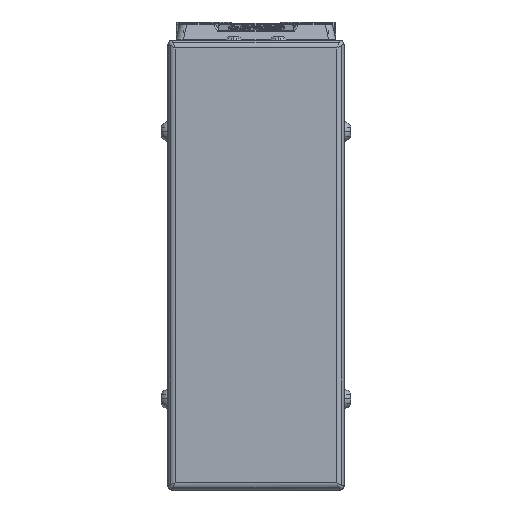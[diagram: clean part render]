
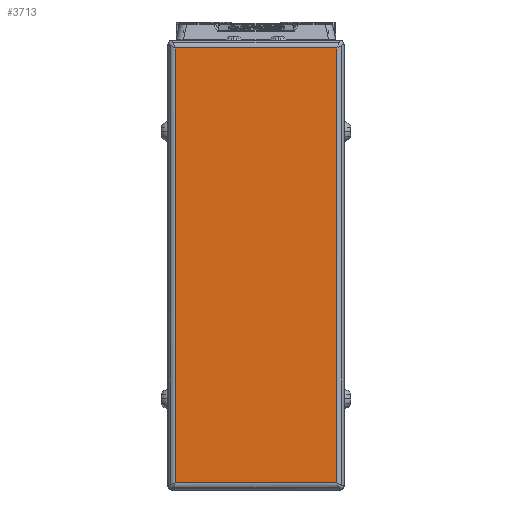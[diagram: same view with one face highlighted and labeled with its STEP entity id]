
A CAD part, left-side view. The second image highlights one B-rep face of the part: STEP entity #3713.
In plain terms, the highlighted planar face has unit normal (-1, 0, 0).
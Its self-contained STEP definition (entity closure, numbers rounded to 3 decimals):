
#3713=ADVANCED_FACE('',(#8205),#8206,.T.);
#8205=FACE_OUTER_BOUND('',#15375,.T.);
#8206=PLANE('',#15376);
#15375=EDGE_LOOP('',(#27265,#27266,#27267,#27268));
#15376=AXIS2_PLACEMENT_3D('',#27269,#27270,#27271);
#27265=ORIENTED_EDGE('',*,*,#35889,.F.);
#27266=ORIENTED_EDGE('',*,*,#38036,.F.);
#27267=ORIENTED_EDGE('',*,*,#38872,.F.);
#27268=ORIENTED_EDGE('',*,*,#35013,.F.);
#27269=CARTESIAN_POINT('',(-48.,0.,-42.5));
#27270=DIRECTION('',(-1.0,0.,0.));
#27271=DIRECTION('',(0.,0.,1.0));
#35013=EDGE_CURVE('',#41345,#41347,#41348,.T.);
#35889=EDGE_CURVE('',#41092,#41345,#42884,.T.);
#38036=EDGE_CURVE('',#46243,#41092,#46245,.T.);
#38872=EDGE_CURVE('',#41347,#46243,#47423,.T.);
#41092=VERTEX_POINT('',#50117);
#41345=VERTEX_POINT('',#50449);
#41347=VERTEX_POINT('',#50451);
#41348=LINE('',#50452,#50453);
#42884=LINE('',#52582,#52583);
#46243=VERTEX_POINT('',#57616);
#46245=LINE('',#57618,#57619);
#47423=LINE('',#59401,#59402);
#50117=CARTESIAN_POINT('',(-48.,21.7,16.));
#50449=CARTESIAN_POINT('',(-48.,-21.7,16.));
#50451=CARTESIAN_POINT('',(-48.,-21.7,-101.0));
#50452=CARTESIAN_POINT('',(-48.,-21.7,-42.5));
#50453=VECTOR('',#63119,10.0);
#52582=CARTESIAN_POINT('',(-48.,0.,16.));
#52583=VECTOR('',#64373,10.0);
#57616=CARTESIAN_POINT('',(-48.,21.7,-101.0));
#57618=CARTESIAN_POINT('',(-48.,21.7,-42.5));
#57619=VECTOR('',#67119,10.0);
#59401=CARTESIAN_POINT('',(-48.,0.,-101.0));
#59402=VECTOR('',#68191,10.0);
#63119=DIRECTION('',(0.,0.,-1.0));
#64373=DIRECTION('',(0.,-1.0,0.));
#67119=DIRECTION('',(0.,0.,1.0));
#68191=DIRECTION('',(0.,1.0,0.));
